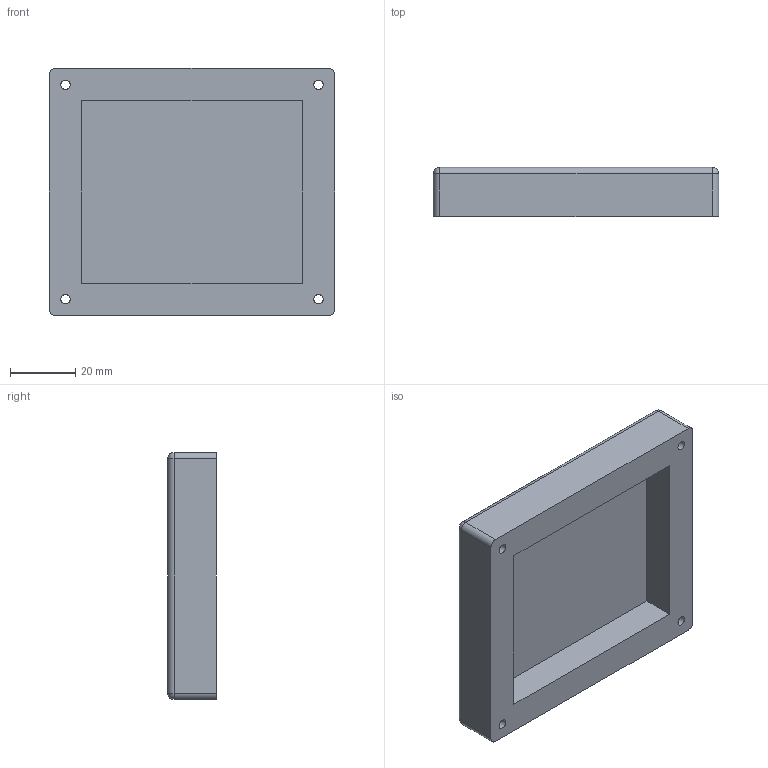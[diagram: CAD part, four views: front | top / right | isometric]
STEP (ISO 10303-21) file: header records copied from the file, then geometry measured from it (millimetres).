
FILE_DESCRIPTION(('STEP AP242 Edition 2','STEP AP242 Edition 2''CAx-IF Rec.Pracs.---Representation and Presentation of Product Manufacturing Information (PMI)---4.0---2014-10-13','STEP AP242 Edition 2''CAx-IF Rec.Pracs.---Representation and Presentation of Product Manufacturing Information (PMI)---4.0---2014-10-13''CAx-IF Rec.Pracs.---3D Tessellated Geometry---0.4---2014-09-14','STEP AP242 Edition 2''CAx-IF Rec.Pracs.---Representation and Presentation of Product Manufacturing Information (PMI)---4.0---2014-10-13''CAx-IF Rec.Pracs.---3D Tessellated Geometry---0.4---2014-09-14''2;1','STEP AP242 Edition 2''CAx-IF Rec.Pracs.---Representation and Presentation of Product Manufacturing Information (PMI)---4.0---2014-10-13''CAx-IF Rec.Pracs.---3D Tessellated Geometry---0.4---2014-09-14''2;1''CAx-IF Rec.Pracs.---User Defined Attributes---1.5---2016-08-15'),'2;1');
FILE_NAME('/vol/tmp/translate-8762307911706928042/Part Studio 1.step','2026-03-29T18:14:51',(''),(''),'ST-DEVELOPER v20','ONSHAPE BY PTC INC, 1.212',' ');
FILE_SCHEMA(('AP242_MANAGED_MODEL_BASED_3D_ENGINEERING_MIM_LF { 1 0 10303 442 3 1 4 }'));
Length unit declared in the file: metre
Products named in the file (1): Part 1
Bounding box: 87.8 x 15 x 76 mm (x, y, z)
Volume: 61400.3 mm3; surface area: 20891 mm2
Topology: 1 solids, 1 shells, 27 faces, 64 edges, 36 vertices
Faces by surface type: cylinder 12, plane 11, sphere 4
Full cylindrical faces by diameter (mm): 2.9 x4
Entity records: 760 total; most frequent: DIRECTION 136, CARTESIAN_POINT 120, ORIENTED_EDGE 112, EDGE_CURVE 56, AXIS2_PLACEMENT_3D 52, EDGE_LOOP 40, FACE_BOUND 40, VERTEX_POINT 36
